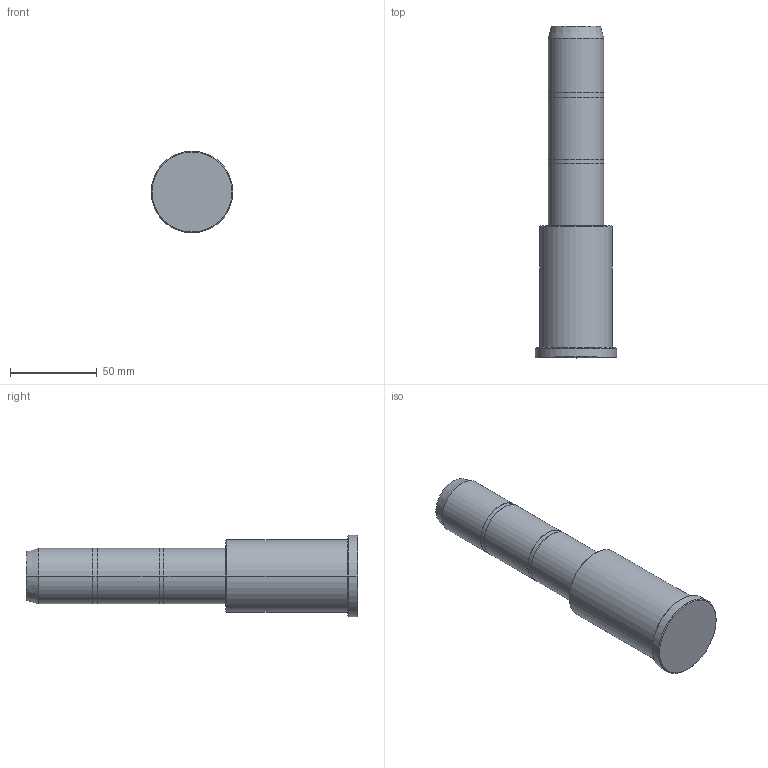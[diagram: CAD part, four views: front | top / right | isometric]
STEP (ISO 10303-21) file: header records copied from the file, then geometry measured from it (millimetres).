
FILE_DESCRIPTION (( 'STEP AP214' ), '1' );
FILE_NAME ('BR03 32x76x115.STEP', '2019-04-16T15:57:24', ( 'August' ), ( '' ), 'SwSTEP 2.0', 'SolidWorks 2018', '' );
FILE_SCHEMA (( 'AUTOMOTIVE_DESIGN' ));
Length unit declared in the file: millimetre
Products named in the file (1): BR03 32x76x115
Bounding box: 47 x 191 x 47 mm (x, y, z)
Volume: 199111.9 mm3; surface area: 24886.7 mm2
Topology: 1 solids, 1 shells, 30 faces, 58 edges, 36 vertices
Faces by surface type: cylinder 14, cone 8, plane 8
Entity records: 808 total; most frequent: DIRECTION 156, CARTESIAN_POINT 125, ORIENTED_EDGE 116, AXIS2_PLACEMENT_3D 67, EDGE_CURVE 58, CIRCLE 36, VERTEX_POINT 36, EDGE_LOOP 36
